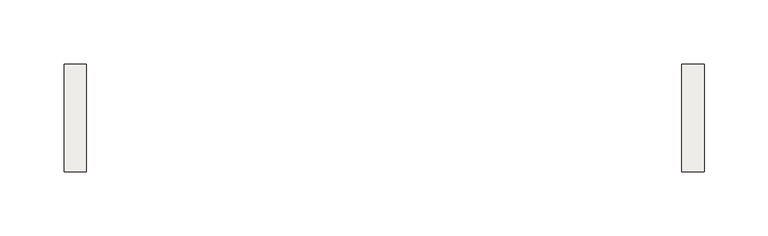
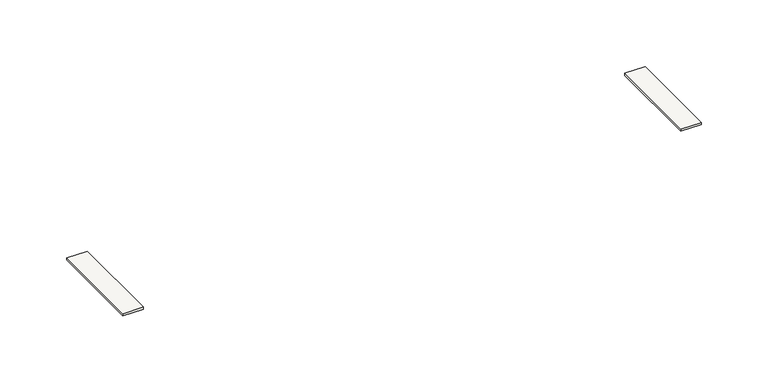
"""IFC4 building model written with IfcOpenShell, lengths in millimetres: covering geometry, Z_DO_NOT_USE_NLRS_PF_52_UN_Extension Set_Easydrain : NLRS_PLF_52_UN_Easy Drain verlengset_Easydrain."""

from ifc_helpers import new_model, si_unit, frame, origin, place, context, project, spatial, polyline, outline, extrude, source, transform, mapped, element, save


def covering_52c8488e(model_context):
    return source(origin(), model_context, "Body", "SweptSolid", [
        extrude(outline(polyline([(482.5, 53.0), (482.5, -31.0), (465.0, -31.0), (465.0, 53.0), (482.5, 53.0)])), frame((0.0, 0.0, -2.0), z_axis=(0.0, 0.0, 1.0), x_axis=(1.0, 0.0, 0.0)), (0.0, 0.0, 1.0), 2.0),
        extrude(outline(polyline([(-17.5, -31.0), (-17.5, 53.0), (0.0, 53.0), (0.0, -31.0), (-17.5, -31.0)])), frame((0.0, 0.0, -2.0), z_axis=(0.0, 0.0, 1.0), x_axis=(1.0, 0.0, 0.0)), (0.0, 0.0, 1.0), 2.0),
    ])


if __name__ == "__main__":
    model = new_model("IFC4")
    model_context = context("Model", 3, world=origin())
    ifc_project = project(units=[si_unit("LENGTHUNIT", "METRE", prefix="MILLI")], contexts=[model_context])
    site = spatial("IfcSite", under=ifc_project)
    building = spatial("IfcBuilding", under=site)
    placement = place(None, origin())
    covering_shape = covering_52c8488e(model_context)
    element("IfcCovering", 1, ObjectType="Z_DO_NOT_USE_NLRS_PF_52_UN_Extension Set_Easydrain : NLRS_PLF_52_UN_Easy Drain verlengset_Easydrain", at=placement, inside=building, context=model_context, shape_type="MappedRepresentation", body=[
        mapped(covering_shape, transform((0.0, 0.0, 0.0), x_axis=(1.0, 0.0, 0.0), y_axis=(0.0, 1.0, 0.0), z_axis=(0.0, 0.0, 1.0))),
    ])
    save(model, "model.ifc")
